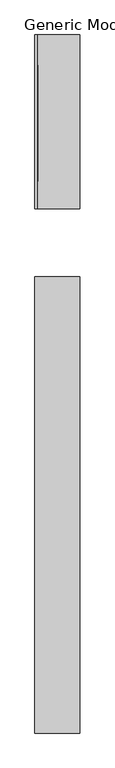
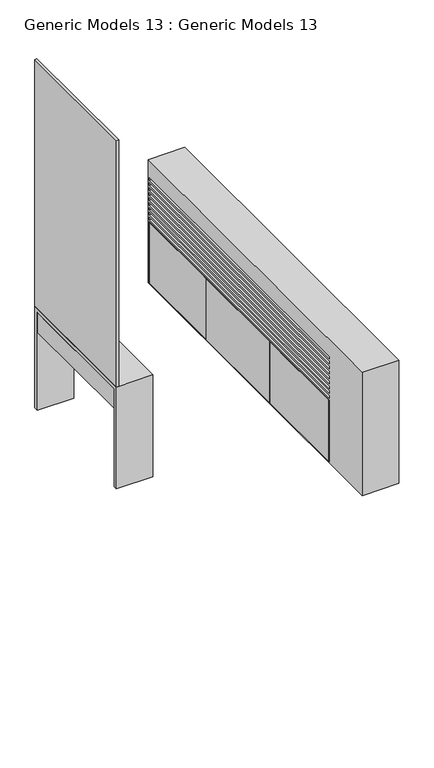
"""IFC4 building model written with IfcOpenShell, lengths in millimetres: proxy geometry, Generic Models 13 : Generic Models 13."""

from ifc_helpers import new_model, si_unit, frame, origin, place, context, project, spatial, polyline, outline, extrude, source, transform, mapped, element, save


def generic_models_13_generic_models_13_b138730d(model_context):
    return source(origin(), model_context, "Body", "SweptSolid", [
        extrude(outline(polyline([(94950.5328944, 24767.54162), (94950.5328944, 24797.3571901), (94951.401386, 24797.3571901), (94951.4013859, 24767.54162), (94950.5328944, 24767.54162)])), frame((0.0, 0.0, 826.9413776), z_axis=(0.0, 0.0, 1.0), x_axis=(1.0, 0.0, 0.0)), (0.0, 0.0, 1.0), 721.0630907),
        extrude(outline(polyline([(0.0, -0.8684916), (0.0, 0.0), (721.0630907, 0.0), (721.0630907, -0.8684916), (0.0, -0.8684916)])), frame((94950.5328944, 24767.5416128, 1518.2708029), z_axis=(-2.2296557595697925e-09, 0.0, 1.0), x_axis=(0.0, 1.0, 0.0)), (0.0, 0.0, 1.0), 29.8155702),
        extrude(outline(polyline([(94950.5328944, 25488.6046964), (94951.4013859, 25488.6046964), (94951.401386, 25458.7891262), (94950.5328944, 25458.7891262), (94950.5328944, 25488.6046964)])), frame((0.0, 0.0, 826.9413776), z_axis=(0.0, 0.0, 1.0), x_axis=(1.0, 0.0, 0.0)), (0.0, 0.0, 1.0), 721.0630907),
        extrude(outline(polyline([(94934.5328922, 25678.2985284), (94950.5328922, 25678.2985285), (94950.5328946, 24594.2985285), (94934.5328946, 24594.2985284), (94934.5328922, 25678.2985284)])), frame((0.0, 0.0, 826.9413776), z_axis=(0.0, 0.0, 1.0), x_axis=(1.0, 0.0, 0.0)), (0.0, 0.0, 1.0), 2000.606551),
        extrude(outline(polyline([(95214.8466293, 25644.2985284), (95214.8466293, 24630.6688928), (94934.7838788, 24630.6688928), (94934.7838788, 25644.2985284), (95214.8466293, 25644.2985284)])), frame((0.0, 0.0, 634.9073613), z_axis=(0.0, 0.0, 1.0), x_axis=(1.0, 0.0, 0.0)), (0.0, 0.0, 1.0), 156.4014941),
        extrude(outline(polyline([(24594.2985284, 826.9413776), (25678.2985284, 826.9413776), (25678.2985284, 0.0), (25646.2985284, 0.0), (25646.2985284, 794.9413776), (24626.2985284, 794.9413776), (24626.2985284, 0.0), (24594.2985284, 0.0), (24594.2985284, 826.9413776)])), frame((94934.7838788, 0.0, 0.0), z_axis=(1.0, 0.0, 0.0), x_axis=(0.0, 1.0, 0.0)), (0.0, 0.0, 1.0), 280.0627504),
        extrude(outline(polyline([(24171.8698482, 2930.0), (24171.8698482, 1928.2191865), (21325.9233453, 1928.2191865), (21325.9233453, 2930.0), (24171.8698482, 2930.0)]), holes=[polyline([(21765.9233453, 2790.0), (21765.9233453, 2770.0), (24155.8698482, 2770.0), (24155.8698482, 2790.0), (21765.9233453, 2790.0)]), polyline([(21765.9233453, 2750.0), (21765.9233453, 2730.0), (24155.8698482, 2730.0), (24155.8698482, 2750.0), (21765.9233453, 2750.0)]), polyline([(21765.9233453, 2710.0), (21765.9233453, 2690.0), (24155.8698482, 2690.0), (24155.8698482, 2710.0), (21765.9233453, 2710.0)]), polyline([(21765.9233453, 2670.0), (21765.9233453, 2650.0), (24155.8698482, 2650.0), (24155.8698482, 2670.0), (21765.9233453, 2670.0)]), polyline([(21765.9233453, 2630.0), (21765.9233453, 2610.0), (24155.8698482, 2610.0), (24155.8698482, 2630.0), (21765.9233453, 2630.0)]), polyline([(21765.9233453, 2590.0), (21765.9233453, 2570.0), (24155.8698482, 2570.0), (24155.8698482, 2590.0), (21765.9233453, 2590.0)]), polyline([(21765.9233453, 2550.0), (21765.9233453, 2530.0), (24155.8698482, 2530.0), (24155.8698482, 2550.0), (21765.9233453, 2550.0)]), polyline([(21765.9233453, 2510.0), (21765.9233453, 2490.0), (24155.8698482, 2490.0), (24155.8698482, 2510.0), (21765.9233453, 2510.0)]), polyline([(21765.9233453, 2470.0), (21765.9233453, 2450.0), (24155.8698482, 2450.0), (24155.8698482, 2470.0), (21765.9233453, 2470.0)]), polyline([(24155.8698482, 1933.8433557), (24155.8698482, 2434.6057374), (21765.9233453, 2434.6057374), (21765.9233453, 1933.8433557), (24155.8698482, 1933.8433557)])]), frame((94934.7838788, 0.0, 0.0), z_axis=(1.0, 0.0, 0.0), x_axis=(0.0, 1.0, 0.0)), (0.0, 0.0, 1.0), 280.0627504),
        extrude(outline(polyline([(95214.8466293, 22548.487544), (95214.8466293, 21769.9233453), (94934.7838788, 21769.9233453), (94934.7838788, 22548.487544), (95214.8466293, 22548.487544)])), frame((0.0, 0.0, 1937.8433557), z_axis=(0.0, 0.0, 1.0), x_axis=(1.0, 0.0, 0.0)), (0.0, 0.0, 1.0), 492.7623817),
        extrude(outline(polyline([(95214.8466293, 23398.0858535), (95214.8466293, 22553.9286569), (94934.7838788, 22553.9286569), (94934.7838788, 23398.0858535), (95214.8466293, 23398.0858535)])), frame((0.0, 0.0, 1937.8433557), z_axis=(0.0, 0.0, 1.0), x_axis=(1.0, 0.0, 0.0)), (0.0, 0.0, 1.0), 492.7623817),
        extrude(outline(polyline([(95214.8466293, 24150.8698482), (95214.8466293, 23401.7669397), (94934.7838788, 23401.7669397), (94934.7838788, 24150.8698482), (95214.8466293, 24150.8698482)])), frame((0.0, 0.0, 1937.8433557), z_axis=(0.0, 0.0, 1.0), x_axis=(1.0, 0.0, 0.0)), (0.0, 0.0, 1.0), 492.7623817),
    ])


if __name__ == "__main__":
    model = new_model("IFC4")
    model_context = context("Model", 3, world=origin())
    ifc_project = project(units=[si_unit("LENGTHUNIT", "METRE", prefix="MILLI")], contexts=[model_context])
    site = spatial("IfcSite", under=ifc_project)
    building = spatial("IfcBuilding", under=site)
    placement = place(None, origin())
    generic_models_13_generic_models_13_shape = generic_models_13_generic_models_13_b138730d(model_context)
    element("IfcBuildingElementProxy", 1, Name="Generic Models 13 : Generic Models 13", ObjectType="Generic Models 13 : Generic Models 13", at=placement, inside=building, context=model_context, shape_type="MappedRepresentation", body=[
        mapped(generic_models_13_generic_models_13_shape, transform((0.0, 0.0, 0.0), x_axis=(1.0, 0.0, 0.0), y_axis=(0.0, 1.0, 0.0), z_axis=(0.0, 0.0, 1.0))),
    ])
    save(model, "model.ifc")
